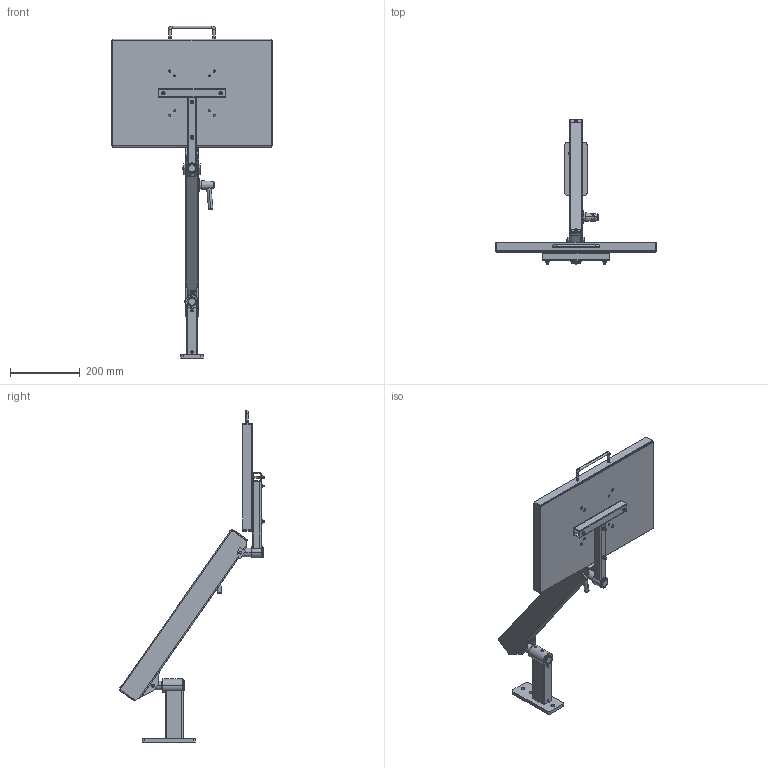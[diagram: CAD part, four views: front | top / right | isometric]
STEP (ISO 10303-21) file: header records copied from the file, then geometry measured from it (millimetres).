
FILE_DESCRIPTION (( 'STEP AP203' ), '1' );
FILE_NAME ('70-0733-00 REV AA, 18in FLEX SYSTEM, TOOL TRAY, WALL MOUNT W EXT - ANGLE DOWN.STEP', '2025-09-17T21:34:22', ( '' ), ( '' ), 'SwSTEP 2.0', 'SolidWorks 2025', '' );
FILE_SCHEMA (( 'CONFIG_CONTROL_DESIGN' ));
Length unit declared in the file: inch
Products named in the file (52): 11-0027-RX REV AA, PLASTIC DISC, BRAKE ASSEMBLY_MACHINE; 70-0401-00 REV AA, 18x12 SUPPORT TRAY ASSEMBLY; 71-1801-BLKX REV AA, FLEX HOUSING, 18in, BLACK; 025-067-00, HANDLE, U SHAPED, 8-32; 71-1800-RX REV AA, HOUSING, 18in FLEX; 013-037-00, SPRING, GREEN, 1x12; 71-0013-RX REV AA, HOUSING, BEARING, SHORT_MACHINE; 010-011-00, RETAINING RING, EXT, .250 SHAFT_010-011-00; 71-0052-RX REV AA, HOUSING, T AND STRAIGHT BAR CROSS SECTION_MACHINE; 011-020-00 REV AA, PIN, KNURLED, 1.0LG x .25OD; 007-036-00, SHSS, 1''4-28, .25L_007-036-00; 002-091-00, FHSCS, 10-32x1.5, BO_002-091-00; 11-0450-00 REV AA, FOAM, YELLOW, 18x12; 010-012-00, RETAINING RING, EXTERNAL, .875in SHAFT; 70-0733-00 REV AA, 18in FLEX SYSTEM, TOOL TRAY, WALL MOUNT W EXT - ANGLE DOWN; 71-1051-RX REV AA, SPRING BLOCK; 71-0038-RX REV AA, PIVOT, KNUCKLE, ELECTROLESS NICKEL; 006-004-00_006-004-00; 11-0650-00 REV AA, BRAKE HANDLE ASSEMBLY; 71-0972-99 REV AA, END CAP, FLEX; 71-3033-99 REV AA, BOLT, ADJUSTING, 15.250; 70-0095-00 REV AA, STUD MOUNT, 6in EXT; 016-070-00, BEARING, PLASTIC, .5ID x .625 OD x .75; 006-059-00; 016-007-00, OILITE PLUS BEARING, 0.876 id x 1.002 od x 0.75 lg; 005-084-00, BOLT, 1''4-20x2.75; 71-0047-RX REV AA, HOUSING, T AND STRAIGHT BAR_MACHINE; 71-0040-RX REV AA, BRAKE BLOCK, WIDE_MACHINE; 11-0401-00 REV AA, 18x12 TOOL TRAY, BLACK; 71-0029-RX REV AA, TAB, LOAD; 004-144-00; 004-050-00, WASHER, FIBER, .032 THK, .265ID; 71-0071-RX REV AA, AXLE PIN, LONG; 71-0031-RX REV AA, KNUCKLE, MOUNT_MACHINE; 71-0091-RX REV AA, HOUSING, WALL MOUNT, 6in EXTENSION; 71-0037-RX REV AA, PIVOT, THREADED; 11-0601-99 REV AA, CONICAL KNOB, BRAKE ASSEMBLY; 002-041-00_002-041-00; 71-0070-RX REV AA, AXLE PIN, SHORT; 71-0217-RX REV AA, PLATE, NARROW WALL MOUNT_Laser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
Assembly tree (80 placements, depth 4):
  70-0733-00 REV AA, 18in FLEX SYSTEM, TOOL TRAY, WALL MOUNT W EXT - ANGLE DOWN
    70-0095-00 REV AA, STUD MOUNT, 6in EXT
      71-0217-RX REV AA, PLATE, NARROW WALL MOUNT_Laser
      71-0091-RX REV AA, HOUSING, WALL MOUNT, 6in EXTENSION
      71-2113-RX REV AA, HOUSING, BEARING, TALL, 1.5OD_MACHINE
      016-007-00, OILITE PLUS BEARING, 0.876 id x 1.002 od x 0.75 lg
      016-008-00, OILITE PLUS BEARING, 0.876 id x 1.002 od x 1.25 lg
      007-036-00, SHSS, 1''4-28, .25L_007-036-00
    70-0401-00 REV AA, 18x12 SUPPORT TRAY ASSEMBLY
      11-0401-00 REV AA, 18x12 TOOL TRAY, BLACK
      70-0050-00 REV AA, T BAR
        71-0047-RX REV AA, HOUSING, T AND STRAIGHT BAR_MACHINE
        71-0013-RX REV AA, HOUSING, BEARING, SHORT_MACHINE
        71-0052-RX REV AA, HOUSING, T AND STRAIGHT BAR CROSS SECTION_MACHINE
        016-008-00, OILITE PLUS BEARING, 0.876 id x 1.002 od x 1.25 lg
        007-031-00_007-031-00
      002-091-00, FHSCS, 10-32x1.5, BO_002-091-00  x4
      006-008-00, NUT, HEX, 10-32 x .125_006-008-00  x4
      025-067-00, HANDLE, U SHAPED, 8-32
      002-100-00, BHSCS, 8-32x.375_002-100-00  x2
      11-0450-00 REV AA, FOAM, YELLOW, 18x12
    70-1833-00 REV AA, FLEX SECTION, 18in, 6-33 LB
      71-0031-RX REV AA, KNUCKLE, MOUNT_MACHINE
      71-2032-RX REV AA, SPRING ROD, 18in FLEX
      71-0030-RX REV AA, KNUCKLE, LOAD_MACHINE
      71-0038-RX REV AA, PIVOT, KNUCKLE, ELECTROLESS NICKEL
      71-3033-99 REV AA, BOLT, ADJUSTING, 15.250
      71-0040-RX REV AA, BRAKE BLOCK, WIDE_MACHINE
      11-0027-RX REV AA, PLASTIC DISC, BRAKE ASSEMBLY_MACHINE
      71-1051-RX REV AA, SPRING BLOCK
      71-0037-RX REV AA, PIVOT, THREADED
      71-0972-99 REV AA, END CAP, FLEX  x2
      11-0650-00 REV AA, BRAKE HANDLE ASSEMBLY
        11-0601-99 REV AA, CONICAL KNOB, BRAKE ASSEMBLY
        11-0602-RX REV AA, HANDLE, BRAKE ASSEMBLY
        11-0027-RX REV AA, PLASTIC DISC, BRAKE ASSEMBLY_MACHINE
        005-084-00, BOLT, 1''4-20x2.75
      71-0071-RX REV AA, AXLE PIN, LONG
      71-1801-BLKX REV AA, FLEX HOUSING, 18in, BLACK
        71-1800-RX REV AA, HOUSING, 18in FLEX
        71-0029-RX REV AA, TAB, LOAD  x2
        71-0028-RX REV AA, TAB, MOUNT_MACHINE  x2
      71-0070-RX REV AA, AXLE PIN, SHORT
      010-011-00, RETAINING RING, EXT, .250 SHAFT_010-011-00  x4
      002-041-00_002-041-00  x2
      010-012-00, RETAINING RING, EXTERNAL, .875in SHAFT  x2
      011-020-00 REV AA, PIN, KNURLED, 1.0LG x .25OD  x2
      011-033-00
      004-144-00  x3
      013-037-00, SPRING, GREEN, 1x12
      016-070-00, BEARING, PLASTIC, .5ID x .625 OD x .75  x2
      006-059-00
      006-004-00_006-004-00  x2
      004-050-00, WASHER, FIBER, .032 THK, .265ID  x8
Bounding box: 461.77 x 418.12 x 953.07 mm (x, y, z)
Volume: 1747765.3 mm3; surface area: 1212877.7 mm2
Topology: 76 solids, 76 shells, 2043 faces, 4964 edges, 3065 vertices
Faces by surface type: cylinder 908, plane 561, cone 423, torus 89, bspline 52, sphere 10
Entity records: 82381 total; most frequent: CARTESIAN_POINT 46773, ORIENTED_EDGE 6160, DIRECTION 6084, EDGE_CURVE 3080, AXIS2_PLACEMENT_3D 2355, VERTEX_POINT 1911, EDGE_LOOP 1415, VECTOR 1374
